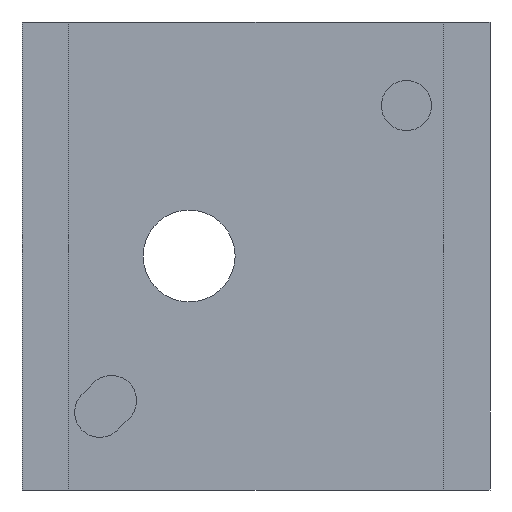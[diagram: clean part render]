
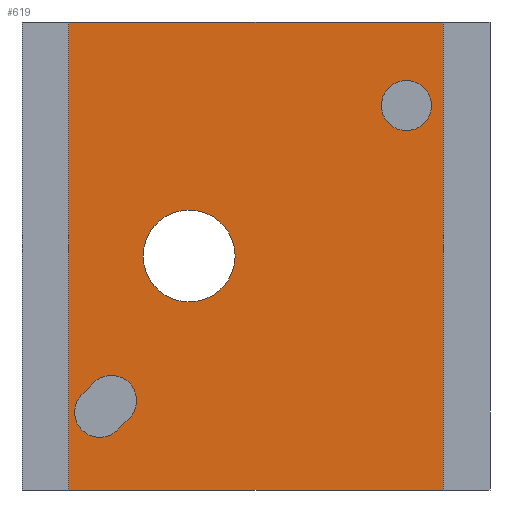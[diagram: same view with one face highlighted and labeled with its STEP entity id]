
A CAD part, front view. The second image highlights one B-rep face of the part: STEP entity #619.
In plain terms, the highlighted planar face has unit normal (0, -1, 0).
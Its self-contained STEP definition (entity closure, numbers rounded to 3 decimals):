
#24=FACE_BOUND('',#89,.T.);
#25=FACE_BOUND('',#90,.T.);
#26=FACE_BOUND('',#91,.T.);
#34=CIRCLE('',#658,1.5);
#35=CIRCLE('',#659,1.5);
#36=CIRCLE('',#660,1.5);
#37=CIRCLE('',#661,2.75);
#52=FACE_OUTER_BOUND('',#88,.T.);
#88=EDGE_LOOP('',(#426,#427,#428,#429));
#89=EDGE_LOOP('',(#430,#431,#432,#433));
#90=EDGE_LOOP('',(#434));
#91=EDGE_LOOP('',(#435));
#134=LINE('',#891,#204);
#138=LINE('',#900,#208);
#140=LINE('',#903,#210);
#141=LINE('',#904,#211);
#142=LINE('',#909,#212);
#143=LINE('',#912,#213);
#204=VECTOR('',#713,28.);
#208=VECTOR('',#719,28.);
#210=VECTOR('',#723,22.4);
#211=VECTOR('',#724,22.4);
#212=VECTOR('',#727,1.);
#213=VECTOR('',#730,1.);
#274=VERTEX_POINT('',#888);
#275=VERTEX_POINT('',#890);
#278=VERTEX_POINT('',#897);
#279=VERTEX_POINT('',#899);
#280=VERTEX_POINT('',#905);
#281=VERTEX_POINT('',#906);
#282=VERTEX_POINT('',#908);
#283=VERTEX_POINT('',#910);
#284=VERTEX_POINT('',#913);
#285=VERTEX_POINT('',#915);
#334=EDGE_CURVE('',#274,#275,#134,.T.);
#338=EDGE_CURVE('',#278,#279,#138,.T.);
#340=EDGE_CURVE('',#275,#278,#140,.T.);
#341=EDGE_CURVE('',#279,#274,#141,.T.);
#342=EDGE_CURVE('',#280,#281,#34,.T.);
#343=EDGE_CURVE('',#282,#280,#142,.T.);
#344=EDGE_CURVE('',#283,#282,#35,.T.);
#345=EDGE_CURVE('',#281,#283,#143,.T.);
#346=EDGE_CURVE('',#284,#284,#36,.T.);
#347=EDGE_CURVE('',#285,#285,#37,.T.);
#426=ORIENTED_EDGE('',*,*,#340,.F.);
#427=ORIENTED_EDGE('',*,*,#334,.F.);
#428=ORIENTED_EDGE('',*,*,#341,.F.);
#429=ORIENTED_EDGE('',*,*,#338,.F.);
#430=ORIENTED_EDGE('',*,*,#342,.F.);
#431=ORIENTED_EDGE('',*,*,#343,.F.);
#432=ORIENTED_EDGE('',*,*,#344,.F.);
#433=ORIENTED_EDGE('',*,*,#345,.F.);
#434=ORIENTED_EDGE('',*,*,#346,.F.);
#435=ORIENTED_EDGE('',*,*,#347,.F.);
#592=PLANE('',#657);
#619=ADVANCED_FACE('',(#52,#24,#25,#26),#592,.F.);
#657=AXIS2_PLACEMENT_3D('',#902,#721,#722);
#658=AXIS2_PLACEMENT_3D('',#907,#725,#726);
#659=AXIS2_PLACEMENT_3D('',#911,#728,#729);
#660=AXIS2_PLACEMENT_3D('',#914,#731,#732);
#661=AXIS2_PLACEMENT_3D('',#916,#733,#734);
#713=DIRECTION('',(0.,0.,1.));
#719=DIRECTION('',(0.,0.,-1.));
#721=DIRECTION('center_axis',(0.,1.,0.));
#722=DIRECTION('ref_axis',(0.,0.,1.));
#723=DIRECTION('',(1.,0.,0.));
#724=DIRECTION('',(-1.,0.,0.));
#725=DIRECTION('center_axis',(0.,-1.,0.));
#726=DIRECTION('ref_axis',(0.707,0.,-0.707));
#727=DIRECTION('',(0.707,0.,0.707));
#728=DIRECTION('center_axis',(0.,-1.,0.));
#729=DIRECTION('ref_axis',(-0.707,0.,0.707));
#730=DIRECTION('',(-0.707,0.,-0.707));
#731=DIRECTION('center_axis',(0.,-1.,0.));
#732=DIRECTION('ref_axis',(-1.,0.,0.));
#733=DIRECTION('center_axis',(0.,-1.,0.));
#734=DIRECTION('ref_axis',(1.,0.,0.));
#888=CARTESIAN_POINT('',(-11.2,0.5,-14.));
#890=CARTESIAN_POINT('',(-11.2,0.5,14.));
#891=CARTESIAN_POINT('',(-11.2,0.5,14.));
#897=CARTESIAN_POINT('',(11.2,0.5,14.));
#899=CARTESIAN_POINT('',(11.2,0.5,-14.));
#900=CARTESIAN_POINT('',(11.2,0.5,-14.));
#902=CARTESIAN_POINT('Origin',(0.,0.5,0.));
#903=CARTESIAN_POINT('',(-7.,0.5,14.));
#904=CARTESIAN_POINT('',(7.,0.5,-14.));
#905=CARTESIAN_POINT('',(-7.586,0.5,-9.707));
#906=CARTESIAN_POINT('',(-9.707,0.5,-7.586));
#907=CARTESIAN_POINT('Origin',(-8.646,0.5,-8.646));
#908=CARTESIAN_POINT('',(-8.293,0.5,-10.414));
#909=CARTESIAN_POINT('',(-3.439,0.5,-5.561));
#910=CARTESIAN_POINT('',(-10.414,0.5,-8.293));
#911=CARTESIAN_POINT('Origin',(-9.354,0.5,-9.354));
#912=CARTESIAN_POINT('',(-5.737,0.5,-3.616));
#913=CARTESIAN_POINT('',(10.5,0.5,9.));
#914=CARTESIAN_POINT('Origin',(9.,0.5,9.));
#915=CARTESIAN_POINT('',(-6.75,0.5,0.));
#916=CARTESIAN_POINT('Origin',(-4.,0.5,0.));
